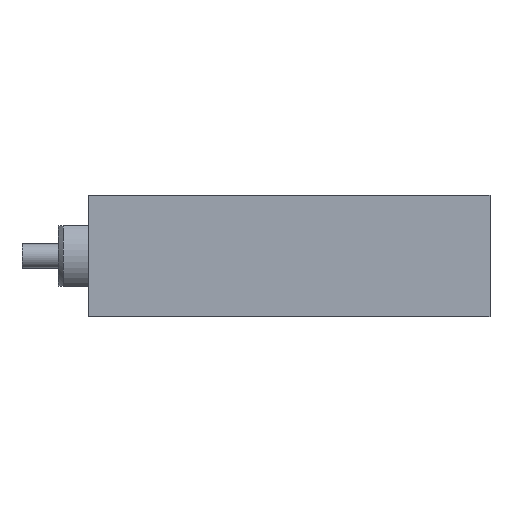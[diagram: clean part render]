
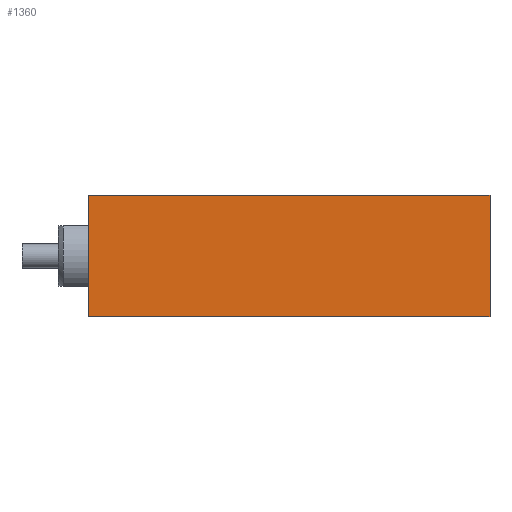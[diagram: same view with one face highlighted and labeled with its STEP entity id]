
A CAD part, front view. The second image highlights one B-rep face of the part: STEP entity #1360.
In plain terms, the highlighted planar face has unit normal (0, -1, 0).
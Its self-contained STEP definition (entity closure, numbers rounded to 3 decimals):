
#70 = DIRECTION ( 'NONE',  ( -1., 0., 0. ) ) ;
#79 = LINE ( 'NONE', #1048, #1323 ) ;
#84 = EDGE_CURVE ( 'NONE', #2088, #2342, #2076, .T. ) ;
#121 = DIRECTION ( 'NONE',  ( 0., -1., 0. ) ) ;
#123 = DIRECTION ( 'NONE',  ( -1., 0., 0. ) ) ;
#136 = ORIENTED_EDGE ( 'NONE', *, *, #2185, .T. ) ;
#151 = ORIENTED_EDGE ( 'NONE', *, *, #1806, .F. ) ;
#212 = VECTOR ( 'NONE', #70, 1000. ) ;
#306 = CARTESIAN_POINT ( 'NONE',  ( 0., -7.5, -5. ) ) ;
#315 = CARTESIAN_POINT ( 'NONE',  ( 33., -7.5, 5. ) ) ;
#415 = VERTEX_POINT ( 'NONE', #2430 ) ;
#492 = VERTEX_POINT ( 'NONE', #306 ) ;
#618 = FACE_OUTER_BOUND ( 'NONE', #1758, .T. ) ;
#729 = DIRECTION ( 'NONE',  ( 1., 0., 0. ) ) ;
#953 = AXIS2_PLACEMENT_3D ( 'NONE', #2183, #121, #729 ) ;
#1048 = CARTESIAN_POINT ( 'NONE',  ( 33., -7.5, -5. ) ) ;
#1071 = LINE ( 'NONE', #1228, #212 ) ;
#1142 = VECTOR ( 'NONE', #2058, 1000. ) ;
#1210 = PLANE ( 'NONE',  #953 ) ;
#1228 = CARTESIAN_POINT ( 'NONE',  ( 33., -7.5, -5. ) ) ;
#1274 = DIRECTION ( 'NONE',  ( 0., 0., 1. ) ) ;
#1275 = LINE ( 'NONE', #1691, #1142 ) ;
#1323 = VECTOR ( 'NONE', #1274, 1000. ) ;
#1360 = ADVANCED_FACE ( 'NONE', ( #618 ), #1210, .T. ) ;
#1691 = CARTESIAN_POINT ( 'NONE',  ( 0., -7.5, -5. ) ) ;
#1758 = EDGE_LOOP ( 'NONE', ( #151, #1991, #136, #2369 ) ) ;
#1806 = EDGE_CURVE ( 'NONE', #492, #2342, #1275, .T. ) ;
#1808 = VECTOR ( 'NONE', #123, 1000. ) ;
#1810 = CARTESIAN_POINT ( 'NONE',  ( 33., -7.5, 5. ) ) ;
#1991 = ORIENTED_EDGE ( 'NONE', *, *, #2255, .F. ) ;
#2058 = DIRECTION ( 'NONE',  ( 0., 0., 1. ) ) ;
#2076 = LINE ( 'NONE', #315, #1808 ) ;
#2088 = VERTEX_POINT ( 'NONE', #1810 ) ;
#2111 = CARTESIAN_POINT ( 'NONE',  ( 0., -7.5, 5. ) ) ;
#2183 = CARTESIAN_POINT ( 'NONE',  ( 33., -7.5, -5. ) ) ;
#2185 = EDGE_CURVE ( 'NONE', #415, #2088, #79, .T. ) ;
#2255 = EDGE_CURVE ( 'NONE', #415, #492, #1071, .T. ) ;
#2342 = VERTEX_POINT ( 'NONE', #2111 ) ;
#2369 = ORIENTED_EDGE ( 'NONE', *, *, #84, .T. ) ;
#2430 = CARTESIAN_POINT ( 'NONE',  ( 33., -7.5, -5. ) ) ;
